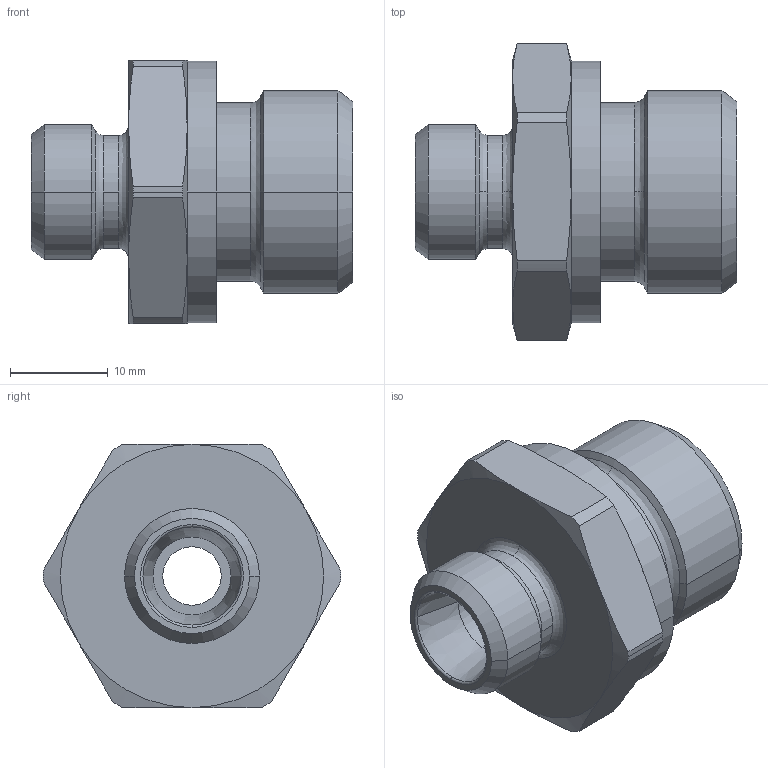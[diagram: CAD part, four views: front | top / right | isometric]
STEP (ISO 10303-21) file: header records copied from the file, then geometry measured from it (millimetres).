
FILE_DESCRIPTION((''),'2;1');
FILE_NAME('100527.stp','2007-10-30T14:36:30',(''),(''),'AutoCAD STEP 2000i','AutoCAD 2000i',', , ');
FILE_SCHEMA(('CONFIG_CONTROL_DESIGN'));
Length unit declared in the file: millimetre
Products named in the file (2): 100527.0; CHIAVE SMUSSATA#0
Assembly tree (1 placements, depth 2):
  100527.0
    CHIAVE SMUSSATA#0
Bounding box: 33 x 30.5 x 27 mm (x, y, z)
Volume: 9688.9 mm3; surface area: 4137.8 mm2
Topology: 1 solids, 1 shells, 75 faces, 185 edges, 117 vertices
Faces by surface type: cylinder 24, cone 24, plane 13, bspline 12, torus 2
Entity records: 2835 total; most frequent: CARTESIAN_POINT 955, DIRECTION 410, ORIENTED_EDGE 370, EDGE_CURVE 185, AXIS2_PLACEMENT_3D 184, CIRCLE 119, VERTEX_POINT 117, EDGE_LOOP 82
